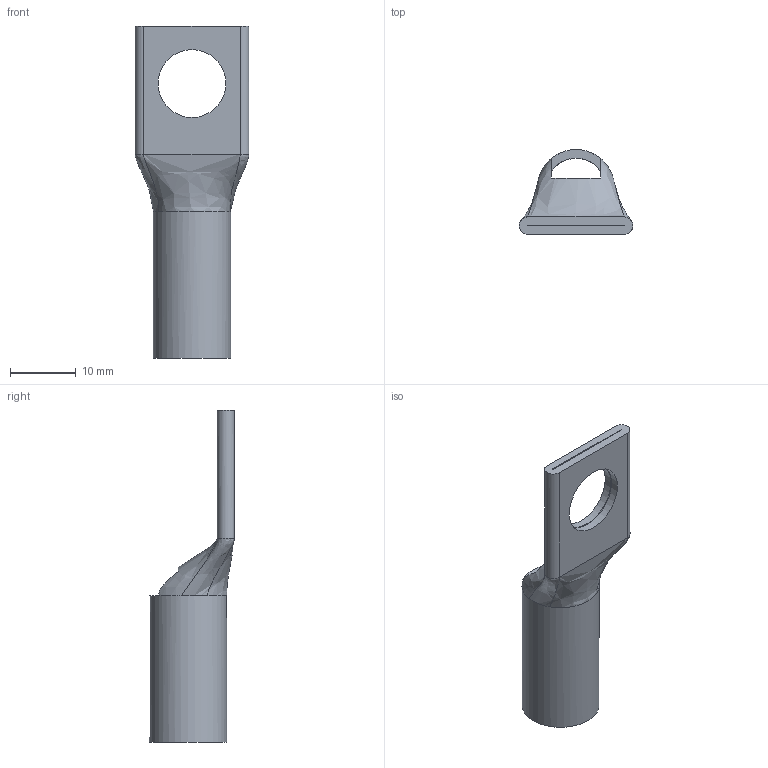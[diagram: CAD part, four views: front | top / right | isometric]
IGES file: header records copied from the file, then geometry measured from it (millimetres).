
Global section: file name: No Iges File Name specified; native system: Autodesk Inventor 2012; preprocessor: AutoDesk Inventor Iges Exporter R2012; author: ssukumar; date: 20130923.175048; units: inch
Bounding box: 17.27 x 12.9 x 50.39 mm (x, y, z)
Volume: 1865.4 mm3; surface area: 3205.2 mm2
Topology: 1 solids, 1 shells, 27 faces, 77 edges, 50 vertices
Faces by surface type: plane 10, bspline 8, revolution 6, cylinder 3
Full cylindrical faces by diameter (mm): 11.709 x1
